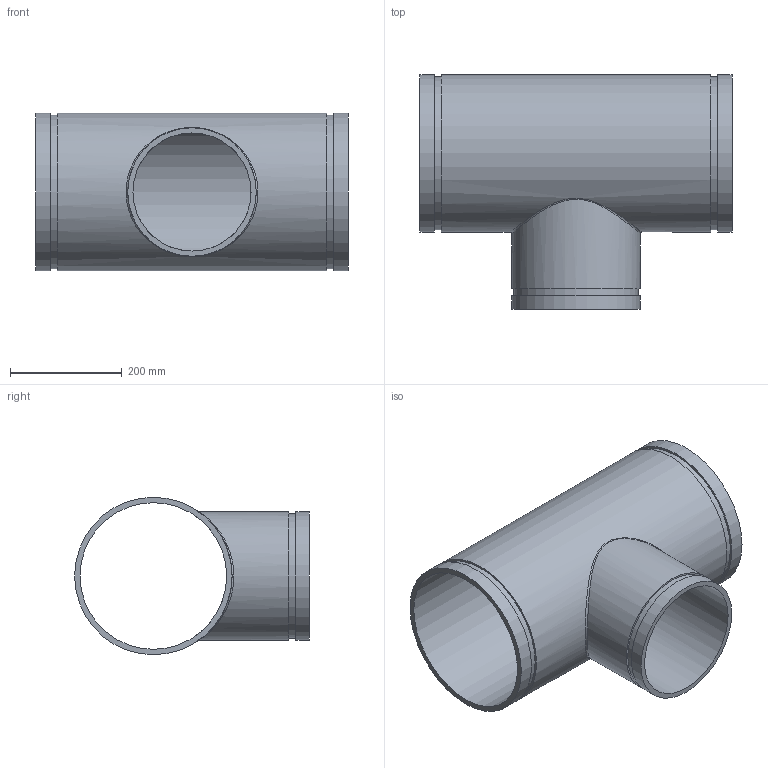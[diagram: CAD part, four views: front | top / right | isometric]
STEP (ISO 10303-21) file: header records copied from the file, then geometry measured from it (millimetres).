
FILE_DESCRIPTION(/* description */ ('VIC REDUCING TEE No 25-C','CAx-IF Rec.Pracs.---Representation and Presentation of Product Manufacturing Information (PMI)---4.0---2014-10-13'),/* implementation_level */ '2;1');
FILE_NAME(/* name */ 'C:\Users\Vjadhav\AppData\Roaming\Autodesk\ApplicationPlugins\Back Up\Victaulic_AWWA_Tee Reducing_No 25-C (DRG)\Victaulic_AWWA_Tee Reducing_No 25-C (DRG)_10.0x08.0 (250x200).stp',/* time_stamp */ '2020-08-18T18:17:54+06:00',/* author */ ('CORINNE GRAY'),/* organization */ ('Victaulic'),/* preprocessor_version */ 'ST-DEVELOPER v17.2',/* originating_system */ 'Autodesk Inventor 2019',/* authorisation */ '');
FILE_SCHEMA (('AP242_MANAGED_MODEL_BASED_3D_ENGINEERING_MIM_LF { 1 0 10303 442 1 1 4 }'));
Length unit declared in the file: inch
Products named in the file (1): 25C-10.0x08.0
Bounding box: 558.8 x 420.37 x 281.94 mm (x, y, z)
Volume: 5166215.1 mm3; surface area: 1144780.7 mm2
Topology: 1 solids, 1 shells, 20 faces, 44 edges, 33 vertices
Faces by surface type: cylinder 10, plane 9, bspline 1
Full cylindrical faces by diameter (mm): 211.582 x1, 223.037 x1, 229.87 x2, 262.636 x1, 274.65 x2, 281.94 x3
Entity records: 1074 total; most frequent: CARTESIAN_POINT 450, DIRECTION 135, ORIENTED_EDGE 90, AXIS2_PLACEMENT_3D 62, EDGE_CURVE 45, VERTEX_POINT 34, EDGE_LOOP 31, CIRCLE 29
